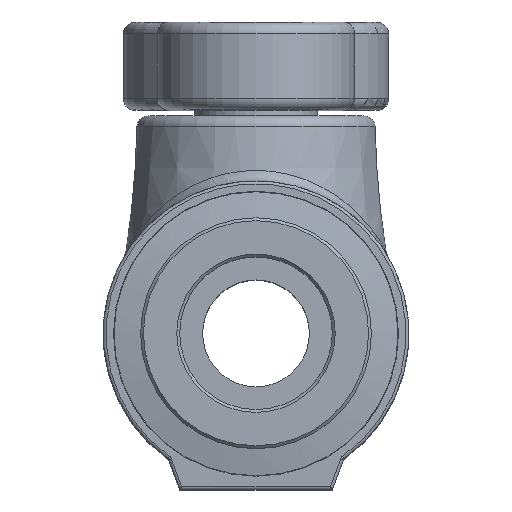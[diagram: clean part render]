
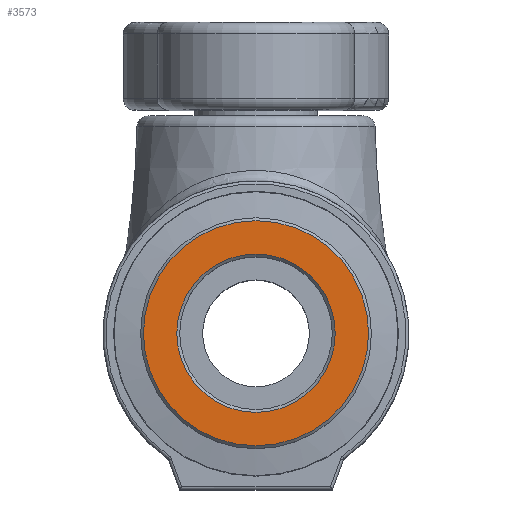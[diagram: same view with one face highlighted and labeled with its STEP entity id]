
A CAD part, top view. The second image highlights one B-rep face of the part: STEP entity #3573.
In plain terms, the highlighted planar face has unit normal (0, 0, 1).
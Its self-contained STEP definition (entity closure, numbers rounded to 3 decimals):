
#267=FACE_BOUND('',#601,.T.);
#281=PLANE('',#3828);
#368=FACE_OUTER_BOUND('',#600,.T.);
#600=EDGE_LOOP('',(#2418));
#601=EDGE_LOOP('',(#2419));
#1207=CIRCLE('',#3825,13.721);
#1210=CIRCLE('',#3829,19.5);
#1483=VERTEX_POINT('',#5464);
#1486=VERTEX_POINT('',#5472);
#1839=EDGE_CURVE('',#1483,#1483,#1207,.T.);
#1843=EDGE_CURVE('',#1486,#1486,#1210,.T.);
#2418=ORIENTED_EDGE('',*,*,#1843,.F.);
#2419=ORIENTED_EDGE('',*,*,#1839,.F.);
#3573=ADVANCED_FACE('',(#368,#267),#281,.T.);
#3825=AXIS2_PLACEMENT_3D('',#5465,#4313,#4314);
#3828=AXIS2_PLACEMENT_3D('',#5471,#4320,#4321);
#3829=AXIS2_PLACEMENT_3D('',#5473,#4322,#4323);
#4313=DIRECTION('center_axis',(0.,0.,1.));
#4314=DIRECTION('ref_axis',(0.,-1.,0.));
#4320=DIRECTION('center_axis',(0.,0.,1.));
#4321=DIRECTION('ref_axis',(1.,0.,0.));
#4322=DIRECTION('center_axis',(0.,0.,-1.));
#4323=DIRECTION('ref_axis',(0.,-1.,0.));
#5464=CARTESIAN_POINT('',(0.,13.721,0.));
#5465=CARTESIAN_POINT('Origin',(0.,0.,0.));
#5471=CARTESIAN_POINT('Origin',(0.,20.,0.));
#5472=CARTESIAN_POINT('',(0.,19.5,0.));
#5473=CARTESIAN_POINT('Origin',(0.,0.,0.));
